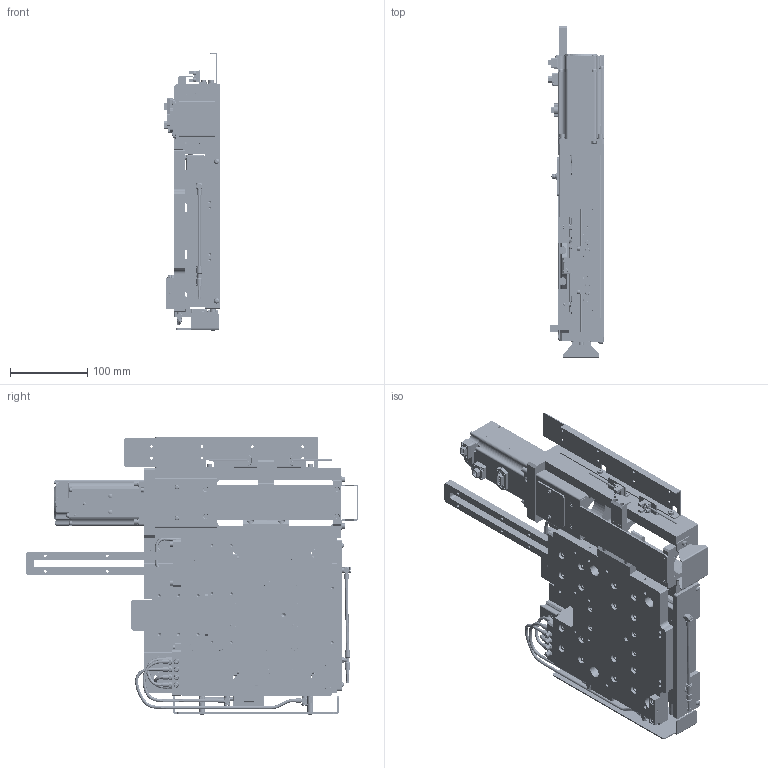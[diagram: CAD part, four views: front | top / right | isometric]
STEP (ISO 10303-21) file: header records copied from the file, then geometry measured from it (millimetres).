
FILE_DESCRIPTION (( 'STEP AP214' ), '1' );
FILE_NAME ('µç¶¯ZÖáTXA21028-L5-P20.STEP', '2025-01-06T11:28:37', ( '' ), ( '' ), 'SwSTEP 2.0', 'SolidWorks 2020', '' );
FILE_SCHEMA (( 'AUTOMOTIVE_DESIGN' ));
Length unit declared in the file: millimetre
Products named in the file (1): 萇雄Z粣TXA21028-L5-P20
Bounding box: 73.5 x 428.5 x 359 mm (x, y, z)
Volume: 3233378.2 mm3; surface area: 847770.8 mm2
Topology: 183 solids, 183 shells, 7665 faces, 18870 edges, 11849 vertices
Faces by surface type: plane 3720, cylinder 2298, cone 1101, torus 418, bspline 72, sphere 56
Entity records: 320767 total; most frequent: CARTESIAN_POINT 50377, DIRECTION 39580, ORIENTED_EDGE 37068, EDGE_CURVE 18534, AXIS2_PLACEMENT_3D 14128, VERTEX_POINT 11849, VECTOR 11324, LINE 11324
